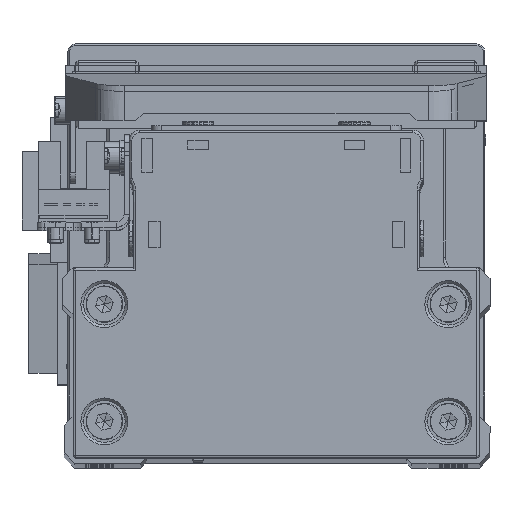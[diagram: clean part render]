
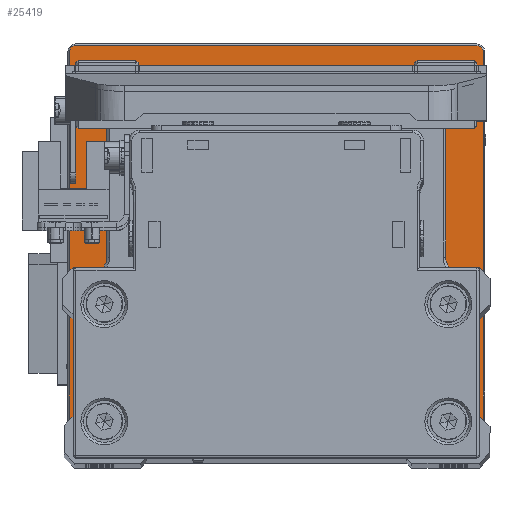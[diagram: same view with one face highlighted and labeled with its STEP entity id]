
A CAD part, top view. The second image highlights one B-rep face of the part: STEP entity #25419.
In plain terms, the highlighted planar face has unit normal (0, 0, 1) as drawn and (0, 1, 0) by its records, which use the part's own axes.
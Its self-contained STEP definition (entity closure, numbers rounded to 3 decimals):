
#472 = ORIENTED_EDGE ( 'NONE', *, *, #17227, .T. ) ;
#1041 = VECTOR ( 'NONE', #10398, 1000. ) ;
#1203 = DIRECTION ( 'NONE',  ( 0., 1., 0. ) ) ;
#1601 = ORIENTED_EDGE ( 'NONE', *, *, #22936, .F. ) ;
#2100 = EDGE_CURVE ( 'NONE', #16092, #20263, #23808, .T. ) ;
#2380 = DIRECTION ( 'NONE',  ( 0., 1., 0. ) ) ;
#2732 = DIRECTION ( 'NONE',  ( -1., 0., 0. ) ) ;
#2768 = CARTESIAN_POINT ( 'NONE',  ( 0., 12., 20.5 ) ) ;
#3176 = ORIENTED_EDGE ( 'NONE', *, *, #5707, .T. ) ;
#3290 = CIRCLE ( 'NONE', #25556, 20.5 ) ;
#3701 = VERTEX_POINT ( 'NONE', #11930 ) ;
#4616 = CARTESIAN_POINT ( 'NONE',  ( 0., 12., 0. ) ) ;
#5097 = DIRECTION ( 'NONE',  ( 0., 1., 0. ) ) ;
#5170 = DIRECTION ( 'NONE',  ( 0., 0., -1. ) ) ;
#5707 = EDGE_CURVE ( 'NONE', #20263, #3701, #25533, .T. ) ;
#6632 = AXIS2_PLACEMENT_3D ( 'NONE', #28517, #1203, #13334 ) ;
#7466 = CARTESIAN_POINT ( 'NONE',  ( -38.5, 12., -39.7 ) ) ;
#7598 = FACE_OUTER_BOUND ( 'NONE', #34002, .T. ) ;
#7682 = EDGE_LOOP ( 'NONE', ( #1601, #14225 ) ) ;
#9702 = AXIS2_PLACEMENT_3D ( 'NONE', #37116, #9772, #21930 ) ;
#9772 = DIRECTION ( 'NONE',  ( 0., 1., 0. ) ) ;
#10327 = CARTESIAN_POINT ( 'NONE',  ( 39.7, 12., 38.5 ) ) ;
#10398 = DIRECTION ( 'NONE',  ( 0., 0., -1. ) ) ;
#11224 = EDGE_CURVE ( 'NONE', #11497, #19770, #14030, .T. ) ;
#11471 = CARTESIAN_POINT ( 'NONE',  ( 0., 12., 39.7 ) ) ;
#11497 = VERTEX_POINT ( 'NONE', #28210 ) ;
#11632 = LINE ( 'NONE', #23792, #12704 ) ;
#11758 = CARTESIAN_POINT ( 'NONE',  ( -38.5, 12., -38.5 ) ) ;
#11930 = CARTESIAN_POINT ( 'NONE',  ( 39.7, 12., -38.5 ) ) ;
#12211 = CARTESIAN_POINT ( 'NONE',  ( 38.5, 12., -39.7 ) ) ;
#12704 = VECTOR ( 'NONE', #35976, 1000. ) ;
#12757 = CIRCLE ( 'NONE', #35065, 1.2 ) ;
#13009 = ORIENTED_EDGE ( 'NONE', *, *, #2100, .T. ) ;
#13334 = DIRECTION ( 'NONE',  ( 0., 0., -1. ) ) ;
#14030 = CIRCLE ( 'NONE', #36339, 1.2 ) ;
#14225 = ORIENTED_EDGE ( 'NONE', *, *, #23921, .F. ) ;
#14513 = DIRECTION ( 'NONE',  ( 0., 0., 1. ) ) ;
#14764 = VERTEX_POINT ( 'NONE', #29555 ) ;
#15512 = VECTOR ( 'NONE', #23637, 1000. ) ;
#16092 = VERTEX_POINT ( 'NONE', #35951 ) ;
#16748 = DIRECTION ( 'NONE',  ( 0., -1., 0. ) ) ;
#16855 = CIRCLE ( 'NONE', #39172, 1.2 ) ;
#17179 = AXIS2_PLACEMENT_3D ( 'NONE', #4616, #16748, #28935 ) ;
#17227 = EDGE_CURVE ( 'NONE', #19770, #16092, #38807, .T. ) ;
#17241 = DIRECTION ( 'NONE',  ( 0., 0., -1. ) ) ;
#17848 = LINE ( 'NONE', #30043, #36418 ) ;
#19481 = ORIENTED_EDGE ( 'NONE', *, *, #29741, .T. ) ;
#19728 = FACE_BOUND ( 'NONE', #7682, .T. ) ;
#19770 = VERTEX_POINT ( 'NONE', #31327 ) ;
#20263 = VERTEX_POINT ( 'NONE', #10327 ) ;
#20303 = CARTESIAN_POINT ( 'NONE',  ( 38.5, 12., -38.5 ) ) ;
#20802 = VERTEX_POINT ( 'NONE', #12211 ) ;
#21826 = VERTEX_POINT ( 'NONE', #7466 ) ;
#21930 = DIRECTION ( 'NONE',  ( 0., 0., 1. ) ) ;
#22936 = EDGE_CURVE ( 'NONE', #28538, #14764, #3290, .T. ) ;
#23637 = DIRECTION ( 'NONE',  ( 1., 0., 0. ) ) ;
#23792 = CARTESIAN_POINT ( 'NONE',  ( -39.7, 12., 0. ) ) ;
#23808 = CIRCLE ( 'NONE', #6632, 1.2 ) ;
#23920 = DIRECTION ( 'NONE',  ( 0., 1., 0. ) ) ;
#23921 = EDGE_CURVE ( 'NONE', #14764, #28538, #26895, .T. ) ;
#25419 = ADVANCED_FACE ( 'NONE', ( #7598, #19728 ), #31929, .F. ) ;
#25533 = LINE ( 'NONE', #37730, #1041 ) ;
#25556 = AXIS2_PLACEMENT_3D ( 'NONE', #29684, #2380, #14513 ) ;
#26729 = ORIENTED_EDGE ( 'NONE', *, *, #34932, .T. ) ;
#26895 = CIRCLE ( 'NONE', #9702, 20.5 ) ;
#28210 = CARTESIAN_POINT ( 'NONE',  ( -39.7, 12., 38.5 ) ) ;
#28517 = CARTESIAN_POINT ( 'NONE',  ( 38.5, 12., 38.5 ) ) ;
#28538 = VERTEX_POINT ( 'NONE', #2768 ) ;
#28935 = DIRECTION ( 'NONE',  ( 0., 0., -1. ) ) ;
#29449 = CARTESIAN_POINT ( 'NONE',  ( -39.7, 12., -38.5 ) ) ;
#29555 = CARTESIAN_POINT ( 'NONE',  ( 0., 12., -20.5 ) ) ;
#29684 = CARTESIAN_POINT ( 'NONE',  ( 0., 12., 0. ) ) ;
#29741 = EDGE_CURVE ( 'NONE', #31067, #11497, #11632, .T. ) ;
#30043 = CARTESIAN_POINT ( 'NONE',  ( 0., 12., -39.7 ) ) ;
#30602 = EDGE_CURVE ( 'NONE', #3701, #20802, #12757, .T. ) ;
#31067 = VERTEX_POINT ( 'NONE', #29449 ) ;
#31327 = CARTESIAN_POINT ( 'NONE',  ( -38.5, 12., 39.7 ) ) ;
#31929 = PLANE ( 'NONE',  #17179 ) ;
#32426 = CARTESIAN_POINT ( 'NONE',  ( -38.5, 12., 38.5 ) ) ;
#32485 = DIRECTION ( 'NONE',  ( 0., 1., 0. ) ) ;
#32490 = EDGE_CURVE ( 'NONE', #20802, #21826, #17848, .T. ) ;
#33096 = ORIENTED_EDGE ( 'NONE', *, *, #32490, .T. ) ;
#33250 = ORIENTED_EDGE ( 'NONE', *, *, #30602, .T. ) ;
#34002 = EDGE_LOOP ( 'NONE', ( #33250, #33096, #26729, #19481, #35648, #472, #13009, #3176 ) ) ;
#34932 = EDGE_CURVE ( 'NONE', #21826, #31067, #16855, .T. ) ;
#35065 = AXIS2_PLACEMENT_3D ( 'NONE', #20303, #32485, #5170 ) ;
#35648 = ORIENTED_EDGE ( 'NONE', *, *, #11224, .T. ) ;
#35951 = CARTESIAN_POINT ( 'NONE',  ( 38.5, 12., 39.7 ) ) ;
#35976 = DIRECTION ( 'NONE',  ( 0., 0., 1. ) ) ;
#36112 = DIRECTION ( 'NONE',  ( 0., 0., -1. ) ) ;
#36339 = AXIS2_PLACEMENT_3D ( 'NONE', #32426, #5097, #17241 ) ;
#36418 = VECTOR ( 'NONE', #2732, 1000. ) ;
#37116 = CARTESIAN_POINT ( 'NONE',  ( 0., 12., 0. ) ) ;
#37730 = CARTESIAN_POINT ( 'NONE',  ( 39.7, 12., 0. ) ) ;
#38807 = LINE ( 'NONE', #11471, #15512 ) ;
#39172 = AXIS2_PLACEMENT_3D ( 'NONE', #11758, #23920, #36112 ) ;
